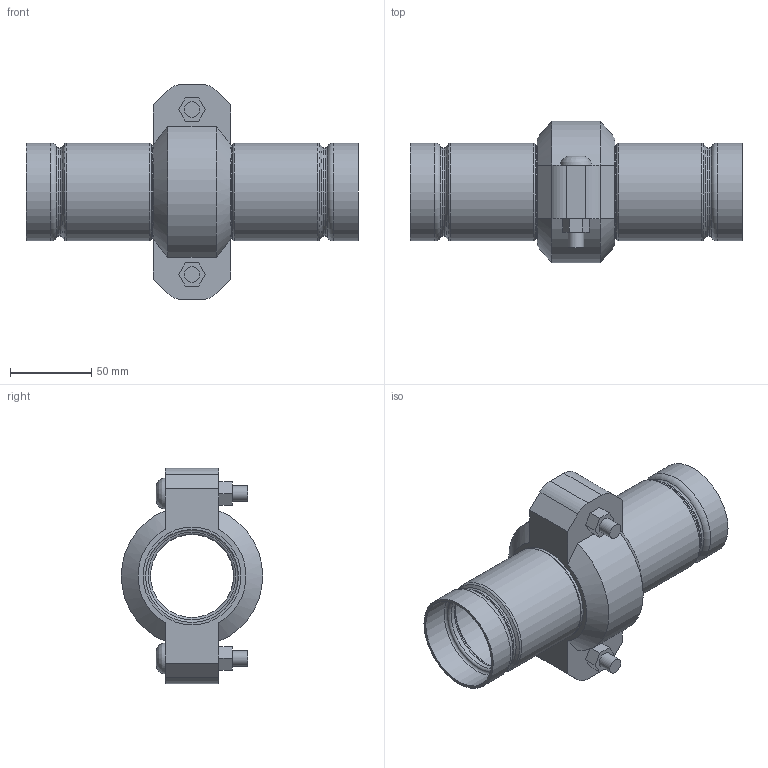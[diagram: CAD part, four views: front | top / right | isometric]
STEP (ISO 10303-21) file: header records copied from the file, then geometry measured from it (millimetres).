
FILE_DESCRIPTION(/* description */ ('VIC STRENGTHIN 100 EXPANSION JOINT 1 COUPLING COMPRESSED STYLE E155 (ST1)','CAx-IF Rec.Pracs.---Representation and Presentation of Product Manufacturing Information (PMI)---4.0---2014-10-13'),/* implementation_level */ '2;1');
FILE_NAME(/* name */ 'C:\Users\Vjadhav\AppData\Roaming\Autodesk\ApplicationPlugins\Victaulic.Temp\A42\Victaulic_SS-StrengThin 100_Expansion Joint_Compressed_1 Coupling_Style E155 (ST1)_2 (50).stp',/* time_stamp */ '2021-07-23T12:24:02+06:00',/* author */ ('kkamble'),/* organization */ ('Victaulic'),/* preprocessor_version */ 'ST-DEVELOPER v17.2',/* originating_system */ 'Autodesk Inventor 2019',/* authorisation */ '');
FILE_SCHEMA (('AP242_MANAGED_MODEL_BASED_3D_ENGINEERING_MIM_LF { 1 0 10303 442 1 1 4 }'));
Length unit declared in the file: inch
Products named in the file (3): E155-02.0; E494G-02.0; 075-02.0
Assembly tree (3 placements, depth 2):
  E155-02.0
    E494G-02.0  x2
    075-02.0
Bounding box: 204.47 x 87.12 x 132.59 mm (x, y, z)
Volume: 262661 mm3; surface area: 117290.7 mm2
Topology: 3 solids, 5 shells, 121 faces, 349 edges, 252 vertices
Faces by surface type: plane 46, cylinder 33, torus 32, cone 8, bspline 2
Full cylindrical faces by diameter (mm): 9.525 x4, 11.43 x2, 51.13 x2, 53.95 x2, 54.331 x2, 57.125 x6, 57.15 x2, 60.325 x7
Entity records: 3147 total; most frequent: CARTESIAN_POINT 568, DIRECTION 551, ORIENTED_EDGE 476, EDGE_CURVE 238, AXIS2_PLACEMENT_3D 230, VERTEX_POINT 169, CIRCLE 139, EDGE_LOOP 105
